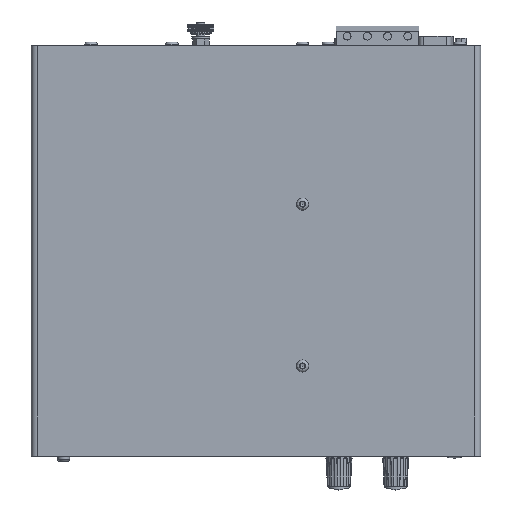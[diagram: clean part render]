
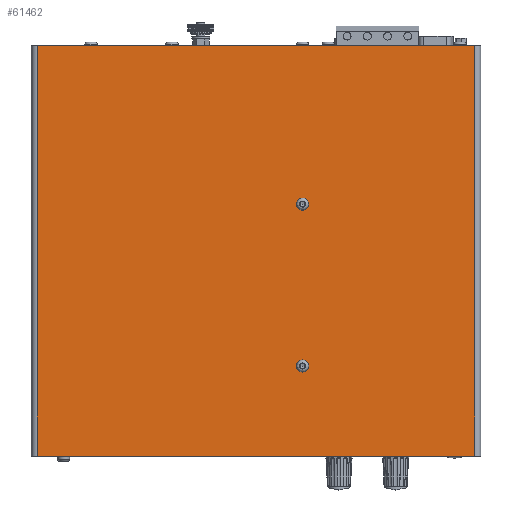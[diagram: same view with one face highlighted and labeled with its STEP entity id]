
A CAD part, top view. The second image highlights one B-rep face of the part: STEP entity #61462.
In plain terms, the highlighted planar face has unit normal (0, 0, 1).
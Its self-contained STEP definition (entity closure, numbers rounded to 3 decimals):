
#2660=FACE_BOUND('',#14446,.T.);
#2661=FACE_BOUND('',#14447,.T.);
#4508=PLANE('',#66599);
#10550=FACE_OUTER_BOUND('',#14445,.T.);
#14445=EDGE_LOOP('',(#53467,#53468,#53469,#53470));
#14446=EDGE_LOOP('',(#53471));
#14447=EDGE_LOOP('',(#53472));
#17480=CIRCLE('',#66600,3.);
#17481=CIRCLE('',#66601,3.);
#21645=LINE('',#106038,#26145);
#21656=LINE('',#106068,#26156);
#21658=LINE('',#106075,#26158);
#21661=LINE('',#106080,#26161);
#26145=VECTOR('',#79912,10.);
#26156=VECTOR('',#79941,10.);
#26158=VECTOR('',#79951,10.);
#26161=VECTOR('',#79958,10.);
#31598=VERTEX_POINT('',#106035);
#31599=VERTEX_POINT('',#106037);
#31608=VERTEX_POINT('',#106065);
#31609=VERTEX_POINT('',#106067);
#31611=VERTEX_POINT('',#106087);
#31612=VERTEX_POINT('',#106089);
#39152=EDGE_CURVE('',#31598,#31599,#21645,.T.);
#39168=EDGE_CURVE('',#31608,#31609,#21656,.T.);
#39172=EDGE_CURVE('',#31598,#31609,#21658,.T.);
#39175=EDGE_CURVE('',#31608,#31599,#21661,.T.);
#39178=EDGE_CURVE('',#31611,#31611,#17480,.T.);
#39179=EDGE_CURVE('',#31612,#31612,#17481,.T.);
#53467=ORIENTED_EDGE('',*,*,#39175,.T.);
#53468=ORIENTED_EDGE('',*,*,#39152,.F.);
#53469=ORIENTED_EDGE('',*,*,#39172,.T.);
#53470=ORIENTED_EDGE('',*,*,#39168,.F.);
#53471=ORIENTED_EDGE('',*,*,#39178,.T.);
#53472=ORIENTED_EDGE('',*,*,#39179,.T.);
#61462=ADVANCED_FACE('',(#10550,#2660,#2661),#4508,.T.);
#66599=AXIS2_PLACEMENT_3D('',#106086,#79967,#79968);
#66600=AXIS2_PLACEMENT_3D('',#106088,#79969,#79970);
#66601=AXIS2_PLACEMENT_3D('',#106090,#79971,#79972);
#79912=DIRECTION('',(1.,0.,0.));
#79941=DIRECTION('',(-1.,0.,0.));
#79951=DIRECTION('',(0.,-1.,0.));
#79958=DIRECTION('',(0.,1.,0.));
#79967=DIRECTION('center_axis',(0.,0.,
1.));
#79968=DIRECTION('ref_axis',(1.,0.,0.));
#79969=DIRECTION('center_axis',(0.,0.,
-1.));
#79970=DIRECTION('ref_axis',(-1.,0.,0.));
#79971=DIRECTION('center_axis',(0.,0.,
-1.));
#79972=DIRECTION('ref_axis',(-1.,0.,0.));
#106035=CARTESIAN_POINT('',(-108.,101.5,52.));
#106037=CARTESIAN_POINT('',(108.,101.5,52.));
#106038=CARTESIAN_POINT('',(-111.,101.5,52.));
#106065=CARTESIAN_POINT('',(108.,-101.5,52.));
#106067=CARTESIAN_POINT('',(-108.,-101.5,52.));
#106068=CARTESIAN_POINT('',(111.,-101.5,52.));
#106075=CARTESIAN_POINT('',(-108.,50.75,52.));
#106080=CARTESIAN_POINT('',(108.,-50.75,52.));
#106086=CARTESIAN_POINT('Origin',(0.,0.,
52.));
#106087=CARTESIAN_POINT('',(26.,23.,52.));
#106088=CARTESIAN_POINT('Origin',(23.,23.,52.));
#106089=CARTESIAN_POINT('',(26.,-57.,52.));
#106090=CARTESIAN_POINT('Origin',(23.,-57.,52.));
